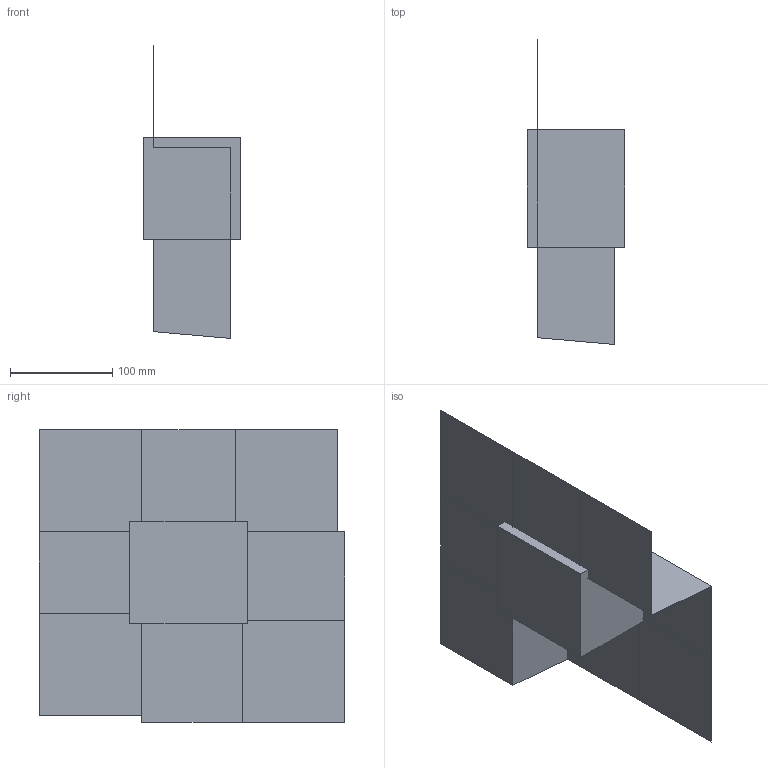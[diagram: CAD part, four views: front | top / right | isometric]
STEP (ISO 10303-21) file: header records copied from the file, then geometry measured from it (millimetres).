
FILE_DESCRIPTION(('CATIA V5 STEP Exchange'),'2;1');
FILE_NAME('C:\_Andres\UNIVERSIDAD\IQS\ASIGNATURAS\DAO\EXF\EXF-15161c\1original\Elvira_Arias_Ej02-moldes_v5.stp','2016-03-04T15:45:33+00:00',('none'),('none'),'CATIA Version 5 Release 20 SP 1 (IN-10)','CATIA V5 STEP AP203','none');
FILE_SCHEMA(('CONFIG_CONTROL_DESIGN'));
Length unit declared in the file: millimetre
Products named in the file (1): Elvira_Arias_Ej02-moldes_v5
Bounding box: 95 x 298.65 x 286.65 mm (x, y, z)
Volume: 2324093 mm3; surface area: 304544.5 mm2
Topology: 3 solids, 7 shells, 45 faces, 118 edges, 83 vertices
Faces by surface type: plane 41, cylinder 4
Entity records: 1101 total; most frequent: ORIENTED_EDGE 198, CARTESIAN_POINT 179, DIRECTION 147, EDGE_CURVE 83, VECTOR 73, LINE 73, VERTEX_POINT 56, EDGE_LOOP 49
